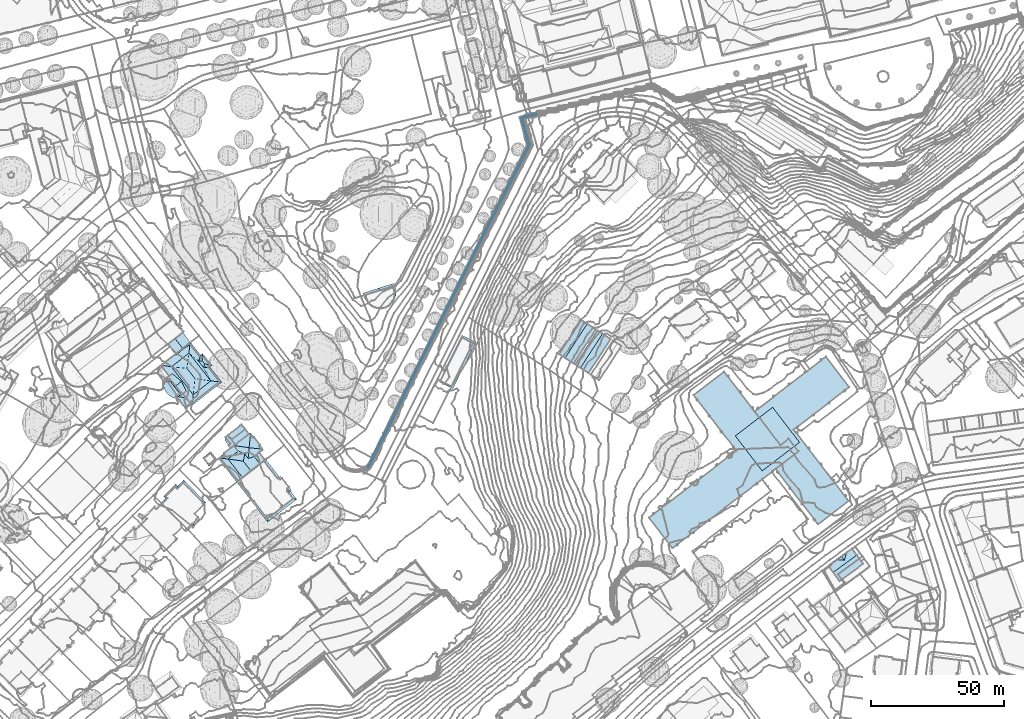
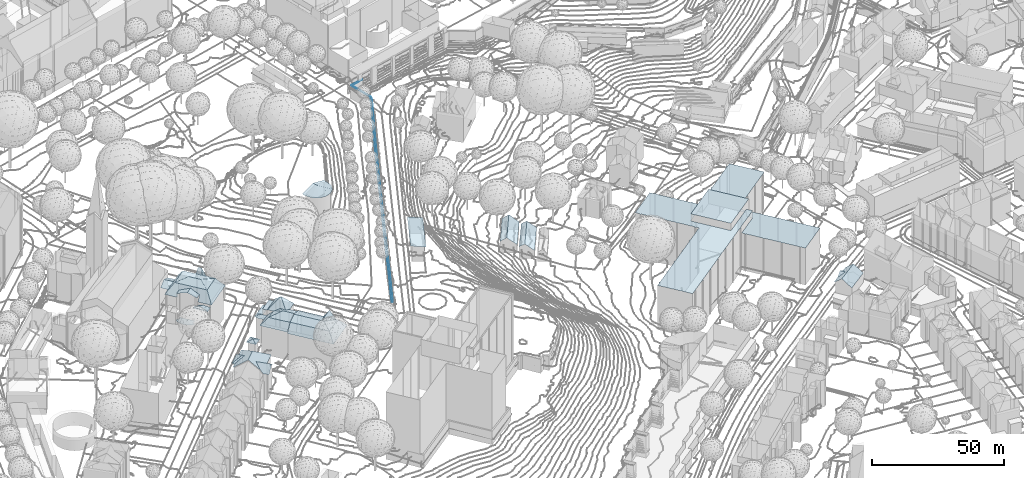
# Not in any storey, part 76 of 477: 19 roofs.
"""IFC4 building model written with IfcOpenShell, lengths in metres."""

from ifc_helpers import new_model, si_unit, frame, origin_with_axes, place, context, subcontext, project, spatial, polygons, element, save


model = new_model("IFC4")

# Units and contexts
model_context = context("Model", 3, precision=1e-05, world=origin_with_axes())
body_context = subcontext(model_context, "Body", "Model", "MODEL_VIEW")
ifc_project = project(units=[si_unit("AREAUNIT", "SQUARE_METRE"), si_unit("LENGTHUNIT", "METRE")], contexts=[model_context])

# Sites, building
site_1_placement = place(None, origin_with_axes())
site_1 = spatial("IfcSite", under=ifc_project, at=site_1_placement, Name="Topoexport Site")
site_2_placement = place(site_1_placement, origin_with_axes())
site_2 = spatial("IfcSite", under=site_1, at=site_2_placement, Name="TPX_BUILDINGS")
building_1_placement = place(site_2_placement, frame((211.8297320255, 101.9383160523, 526.7541), z_axis=(0.0, 0.0, 1.0), x_axis=(1.0, 0.0, 0.0)))
building_1 = spatial("IfcBuilding", under=site_2, at=building_1_placement, Name="Building 18", CompositionType="ELEMENT")

# Roof
roof_1_placement = place(None, frame((211.8297320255, 101.9383160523, 526.7541), z_axis=(0.0, 0.0, 1.0), x_axis=(1.0, 0.0, 0.0)))
element("IfcRoof", 1, at=roof_1_placement, inside=building_1, Name="Roof 61", context=body_context, shape_type="Tessellation", body=[
    polygons([(101.5769999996, 200.1640000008, 12.725), (98.7160000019, 210.6893999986, 12.908), (102.1030000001, 200.1112999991, 12.725), (98.7479999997, 194.5351000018, 12.725), (99.1889999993, 194.3115000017, 12.725), (87.0150000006, 170.5927000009, 12.7249), (86.574000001, 170.8154000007, 12.7249), (99.3280000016, 210.3222000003, 12.908), (104.682, 212.057599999, 12.908), (104.8100000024, 211.5791000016, 12.908), (69.2980000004, 136.0634999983, 12.3579), (79.3300000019, 155.1757000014, 12.45), (69.7410000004, 135.8436999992, 12.3579), (78.8869000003, 155.3955000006, 12.45), (60.0820000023, 116.4853000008, 12.2659), (59.6380000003, 116.7041000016, 12.2659), (41.626000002, 79.3007999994, 11.9909), (50.068, 97.128899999, 11.991), (50.5109999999, 96.9081999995, 11.991), (41.1750000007, 79.504900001, 11.9909)], [[[3, 2, 1]], [[5, 3, 4]], [[4, 3, 1]], [[4, 7, 6]], [[4, 6, 5]], [[2, 3, 8]], [[10, 9, 8]], [[2, 8, 9]], [[13, 12, 11]], [[11, 12, 14]], [[16, 15, 13]], [[16, 13, 11]], [[6, 7, 14]], [[14, 12, 6]], [[19, 18, 17]], [[20, 17, 18]], [[18, 19, 15]], [[15, 16, 18]]]),
])

# Building
building_2_placement = place(site_2_placement, frame((191.7677320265, 184.7195160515, 533.4186), z_axis=(0.0, 0.0, 1.0), x_axis=(1.0, 0.0, 0.0)))
building_2 = spatial("IfcBuilding", under=site_2, at=building_2_placement, Name="Building 38", CompositionType="ELEMENT")

# Roof
roof_2_placement = place(None, frame((191.7677320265, 184.7195160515, 533.4186), z_axis=(0.0, 0.0, 1.0), x_axis=(1.0, 0.0, 0.0)))
element("IfcRoof", 2, at=roof_2_placement, inside=building_2, Name="Roof 0", context=body_context, shape_type="Tessellation", body=[
    polygons([(2.1559999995, -0.2733999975, 7.1693), (2.3889999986, 1.7871000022, 6.5494), (4.9010000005, -0.5975999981, 6.3234), (2.4739999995, 2.5362000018, 6.3234), (1.7939999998, -3.0047999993, 6.3234), (1.8900000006, -2.2802000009, 6.5484), (0.0410000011, 0.0322999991, 6.5284), (-0.6339999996, 0.1289000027, 6.3234)], [[[3, 2, 1]], [[2, 3, 4]], [[6, 5, 3]], [[3, 1, 6]], [[2, 4, 7]], [[7, 1, 2]], [[8, 7, 4]], [[7, 8, 5]], [[7, 6, 1]], [[6, 7, 5]]]),
])

# Building
building_3_placement = place(site_2_placement, frame((204.5047320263, 176.2020160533, 532.0837), z_axis=(0.0, 0.0, 1.0), x_axis=(1.0, 0.0, 0.0)))
building_3 = spatial("IfcBuilding", under=site_2, at=building_3_placement, Name="Building 39", CompositionType="ELEMENT")

# Roof
roof_3_placement = place(None, frame((204.5047320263, 176.2020160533, 532.0837), z_axis=(0.0, 0.0, 1.0), x_axis=(1.0, 0.0, 0.0)))
element("IfcRoof", 3, at=roof_3_placement, inside=building_3, Name="Roof 0", context=body_context, shape_type="Tessellation", body=[
    polygons([(6.443, -4.9726999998, 16.2564), (4.618999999, -2.6182000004, 16.2505), (11.7740000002, -5.2979000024, 17.3633), (4.7919999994, 3.7127999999, 17.3634), (1.2659999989, -1.6202000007, 13.7067), (-0.563000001, -0.4365999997, 12.8058), (0.7840000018, -1.0030000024, 13.7007), (1.7730000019, -2.2696000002, 13.7137), (8.3430000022, -7.4229000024, 16.2654), (11.0329999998, -15.4013999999, 12.8058), (10.2710000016, -13.1425999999, 13.7857), (2.7219999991, -0.1680000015, 16.2415), (0.0, 0.0, 13.6807), (1.6440000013, 1.2733999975, 16.2365), (14.6059999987, -1.9483000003, 16.3204), (8.182, 6.3398000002, 16.3205), (10.387000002, 8.0487999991, 12.8058), (11.7120000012, 4.9081999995, 13.9097), (15.4829999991, 1.4715999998, 12.8058), (15.3680000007, 1.0243999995, 13.2647), (10.5859999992, 7.7918999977, 12.8058), (17.7809999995, -0.6436000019, 17.3633), (15.686999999, -3.3535999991, 16.3204), (19.0969999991, -2.3428000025, 14.7176), (20.0480000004, -3.5713, 12.8058), (18.7879999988, -3.5078999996, 13.8217), (21.9820000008, -6.9160999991, 12.8058), (11.1900000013, -14.0870000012, 13.9737), (20.6209999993, -6.7325000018, 14.0196), (11.5040000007, -11.4483000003, 16.3204), (18.0410000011, -6.3828999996, 16.3204), (19.637000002, -3.8887000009, 12.8058), (19.1220000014, -4.6933999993, 13.9397), (18.4979999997, -3.7344000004, 13.8187), (12.3020000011, -5.9785999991, 17.3633), (15.8940000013, 1.7899999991, 13.0208), (16.4570000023, 1.0634000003, 14.3166)], [[[3, 2, 1]], [[3, 4, 2]], [[7, 6, 5]], [[1, 2, 7]], [[1, 7, 5]], [[5, 6, 8]], [[9, 1, 5]], [[9, 5, 8]], [[8, 6, 10]], [[11, 9, 8]], [[10, 11, 8]], [[7, 2, 12]], [[7, 12, 6]], [[13, 6, 12]], [[12, 14, 13]], [[2, 4, 12]], [[4, 14, 12]], [[16, 4, 15]], [[3, 15, 4]], [[18, 17, 16]], [[15, 18, 16]], [[20, 19, 18]], [[15, 20, 18]], [[17, 18, 21]], [[21, 18, 19]], [[3, 22, 15]], [[22, 3, 23]], [[22, 23, 24]], [[24, 26, 25]], [[26, 24, 23]], [[28, 10, 27]], [[30, 28, 29]], [[29, 31, 30]], [[27, 29, 28]], [[29, 27, 32]], [[29, 33, 31]], [[33, 29, 32]], [[34, 23, 33]], [[33, 32, 34]], [[31, 33, 23]], [[32, 25, 34]], [[26, 23, 34]], [[26, 34, 25]], [[3, 35, 31]], [[31, 23, 3]], [[30, 31, 35]], [[3, 1, 9]], [[9, 35, 3]], [[30, 35, 9]], [[30, 9, 28]], [[11, 10, 28]], [[11, 28, 9]], [[20, 15, 36]], [[20, 36, 19]], [[15, 22, 37]], [[15, 37, 36]]]),
])

# Building
building_4_placement = place(site_2_placement, frame((197.8567320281, 184.744916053, 532.0838), z_axis=(0.0, 0.0, 1.0), x_axis=(1.0, 0.0, 0.0)))
building_4 = spatial("IfcBuilding", under=site_2, at=building_4_placement, Name="Building 40", CompositionType="ELEMENT")

# Roofs
roof_4_placement = place(None, frame((197.8567320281, 184.744916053, 532.0838), z_axis=(0.0, 0.0, 1.0), x_axis=(1.0, 0.0, 0.0)))
element("IfcRoof", 4, at=roof_4_placement, inside=building_4, Name="Roof 0", context=body_context, shape_type="Tessellation", body=[
    polygons([(9.1039999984, 1.5566999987, 16.9903), (8.5839999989, -1.1455000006, 17.6982), (6.7390000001, 2.6748000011, 15.8304), (10.3859999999, -0.1435000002, 16.8103), (5.1609999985, 4.7109999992, 15.8304), (6.6079999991, 2.8447999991, 15.6304), (3.9210000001, 3.7509999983, 13.4287), (5.1609999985, 4.7109999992, 13.4287), (2.8959999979, -0.3047000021, 16.1534), (1.3369999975, 1.7480999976, 13.4287), (0.0460000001, -0.0595000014, 14.1016), (-0.8900000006, 0.0214999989, 13.4287), (0.6609999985, -0.8506000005, 14.1086), (3.3319999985, -0.9384000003, 16.1154), (5.2709999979, -3.4404000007, 16.1304), (6.6479999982, -8.5428999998, 14.1446), (7.0219999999, -5.7001999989, 16.1434), (8.2919999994, -7.2695000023, 16.2364), (6.0849999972, -8.9794999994, 13.4286), (6.3269999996, -8.1308000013, 14.1306), (11.4399999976, -4.8300999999, 17.6982), (14.8299999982, -2.2030999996, 15.8304), (12.6519999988, 0.6064999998, 15.8304), (15.6419999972, 2.9239000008, 15.8304), (15.3669999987, 3.4081999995, 16.5093), (16.1559999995, 3.3222999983, 15.8304), (14.6119999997, 2.1259999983, 15.8304), (10.7410000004, 3.9091999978, 20.49), (12.7159999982, 7.7626999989, 15.8304), (11.2669999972, 8.6767999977, 16.5264), (11.3589999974, 9.5146999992, 15.8304), (14.8389999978, 5.0214999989, 15.8304), (5.6769999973, 5.1142999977, 15.8304), (12.7740000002, 0.7021999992, 15.6304), (14.6119999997, 2.1259999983, 12.6237), (16.7899999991, -0.6845000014, 12.6237)], [[[3, 2, 1]], [[1, 2, 4]], [[1, 5, 3]], [[8, 7, 6]], [[3, 6, 7]], [[7, 9, 3]], [[11, 9, 10]], [[10, 12, 11]], [[7, 10, 9]], [[12, 13, 11]], [[11, 13, 14]], [[14, 9, 11]], [[15, 14, 13]], [[18, 17, 16]], [[20, 19, 16]], [[20, 16, 17]], [[17, 2, 15]], [[14, 15, 2]], [[9, 2, 3]], [[2, 9, 14]], [[2, 17, 21]], [[21, 17, 18]], [[2, 21, 4]], [[4, 21, 22]], [[22, 23, 4]], [[26, 25, 24]], [[24, 25, 27]], [[27, 28, 23]], [[28, 27, 25]], [[4, 23, 28]], [[4, 28, 1]], [[5, 1, 28]], [[31, 30, 29]], [[29, 30, 28]], [[32, 28, 25]], [[28, 32, 29]], [[25, 26, 32]], [[13, 12, 19]], [[15, 13, 20]], [[20, 17, 15]], [[19, 20, 13]], [[33, 30, 31]], [[28, 33, 5]], [[30, 33, 28]], [[23, 22, 34]], [[34, 36, 35]], [[36, 34, 22]]]),
])
roof_5_placement = place(None, frame((197.8567320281, 184.744916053, 532.0838), z_axis=(0.0, 0.0, 1.0), x_axis=(1.0, 0.0, 0.0)))
element("IfcRoof", 5, at=roof_5_placement, inside=building_4, Name="Roof 1", context=body_context, shape_type="Tessellation", body=[
    polygons([(5.6769999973, 5.1142999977, 15.1485), (4.2889999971, 6.9043000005, 15.1485), (9.5409999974, 10.9756000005, 15.1485), (10.9299999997, 9.183600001, 15.1485)], [[[3, 2, 1]], [[4, 3, 1]]]),
])
roof_6_placement = place(None, frame((197.8567320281, 184.744916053, 532.0838), z_axis=(0.0, 0.0, 1.0), x_axis=(1.0, 0.0, 0.0)))
element("IfcRoof", 6, at=roof_6_placement, inside=building_4, Name="Roof 2", context=body_context, shape_type="Tessellation", body=[
    polygons([(1.936999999, 7.816399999, 12.1418), (4.0439999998, 7.2216999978, 12.6367), (2.7669999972, 6.75, 12.2948), (1.856999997, 6.4140999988, 12.0508), (1.550999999, 7.9307000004, 12.0508), (2.9629999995, 8.6162, 12.1738), (2.7649999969, 8.871100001, 12.0888), (3.1030000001, 4.8066999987, 12.0508), (5.6769999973, 5.1142999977, 12.6367), (3.9210000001, 3.7509999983, 12.0508), (8.0169999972, 12.9404999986, 12.1278), (9.5409999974, 10.9756000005, 12.1278), (4.0439999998, 7.2216999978, 12.1278), (4.2889999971, 6.9043000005, 12.1278), (3.2669999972, 8.2236999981, 12.1038)], [[[3, 2, 1]], [[3, 5, 4]], [[5, 3, 1]], [[5, 1, 6]], [[5, 6, 7]], [[6, 1, 2]], [[10, 9, 8]], [[8, 9, 2]], [[4, 8, 3]], [[3, 8, 2]], [[13, 12, 11]], [[12, 13, 14]], [[13, 11, 15]], [[7, 15, 11]]]),
])

# Building
building_5_placement = place(site_2_placement, frame((424.3367320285, 142.6277160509, 499.4686), z_axis=(0.0, 0.0, 1.0), x_axis=(1.0, 0.0, 0.0)))
building_5 = spatial("IfcBuilding", under=site_2, at=building_5_placement, Name="Building 62", CompositionType="ELEMENT")

# Roof
roof_7_placement = place(None, frame((424.3367320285, 142.6277160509, 499.4686), z_axis=(0.0, 0.0, 1.0), x_axis=(1.0, 0.0, 0.0)))
element("IfcRoof", 7, at=roof_7_placement, inside=building_5, Name="Roof 2", context=body_context, shape_type="Tessellation", body=[
    polygons([(4.9789999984, 4.0420000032, 10.672), (6.2359999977, 5.5557000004, 11.9688), (6.5159999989, 5.1739000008, 11.9688), (7.5119999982, 3.8115999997, 11.9688), (4.2569999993, 4.1075000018, 10.302), (8.5209999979, 7.2276000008, 10.302), (8.3029999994, 6.4912, 10.662), (12.2349999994, 5.7920000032, 12.8867), (3.3819999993, -0.682599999, 12.8867), (14.675999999, 2.452200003, 9.824), (5.8249999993, -4.0233999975, 9.824), (10.3319999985, 8.3916000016, 10.377), (10.5249999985, 8.1280000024, 10.632), (1.4039999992, 2.0205000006, 10.302), (1.8729999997, 1.379900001, 10.9149)], [[[3, 2, 1]], [[1, 4, 3]], [[5, 1, 2]], [[7, 6, 2]], [[2, 3, 7]], [[3, 4, 7]], [[4, 8, 7]], [[9, 8, 4]], [[10, 8, 9]], [[9, 11, 10]], [[7, 8, 6]], [[13, 12, 6]], [[8, 13, 6]], [[15, 5, 14]], [[15, 1, 5]], [[9, 1, 15]], [[9, 4, 1]]]),
])

# Building
building_6_placement = place(site_2_placement, frame((176.0177320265, 167.5691160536, 531.6498), z_axis=(0.0, 0.0, 1.0), x_axis=(1.0, 0.0, 0.0)))
building_6 = spatial("IfcBuilding", under=site_2, at=building_6_placement, Name="Building 75", CompositionType="ELEMENT")

# Roof
roof_8_placement = place(None, frame((176.0177320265, 167.5691160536, 531.6498), z_axis=(0.0, 0.0, 1.0), x_axis=(1.0, 0.0, 0.0)))
element("IfcRoof", 8, at=roof_8_placement, inside=building_6, Name="Roof 0", context=body_context, shape_type="Tessellation", body=[
    polygons([(3.7859999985, -3.8349000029, 16.7394), (5.6339999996, 2.182699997, 14.4406), (8.129999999, 0.4511999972, 16.7394), (8.1020000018, 7.7969000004, 12.7008), (0.0, 0.0, 12.5908), (2.0469999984, 2.1845999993, 12.5008), (-0.4659999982, 0.4716999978, 12.0798), (1.2679999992, 2.1845999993, 12.0798), (8.0980000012, 8.9267999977, 12.0798), (5.8429999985, 6.7001999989, 12.0798), (5.7989999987, 5.7597999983, 12.5718), (16.4149999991, 0.5029999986, 12.0798), (15.3599999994, 0.4960999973, 12.6737), (1.4890000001, 2.9219000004, 12.5938), (0.5190000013, 2.941399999, 12.0798), (4.9759999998, 2.8497000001, 14.4406), (12.194000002, -3.6640000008, 12.0798), (5.0639999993, 6.2696000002, 12.6898), (5.0940000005, 7.4599999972, 12.0798), (7.2509999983, -3.8769000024, 14.7546), (7.0960000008, -7.1894000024, 12.9447), (11.3790000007, -3.754800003, 12.5218), (11.1099999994, -8.5371000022, 14.2356), (9.1000000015, -10.5205000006, 12.0798), (10.9990000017, -7.8192999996, 14.6726), (11.0590000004, -7.7343000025, 14.7545), (11.944000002, -7.7148000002, 14.2356), (7.4030000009, -8.8007000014, 12.0798), (8.5870000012, -10.0, 12.0798), (11.4840000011, -7.3388000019, 14.2866), (11.8399999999, -6.9843000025, 13.9196), (13.568, -5.0566000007, 12.0798), (14.0949999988, -5.5908000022, 12.0798), (13.4609999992, -5.1621000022, 12.1828)], [[[3, 2, 1]], [[2, 3, 4]], [[6, 5, 1]], [[8, 7, 5]], [[6, 1, 2]], [[10, 4, 9]], [[4, 10, 11]], [[6, 8, 5]], [[11, 2, 4]], [[13, 12, 9]], [[13, 4, 3]], [[4, 13, 9]], [[15, 8, 14]], [[14, 8, 6]], [[6, 2, 16]], [[6, 16, 14]], [[13, 3, 17]], [[2, 11, 16]], [[16, 11, 18]], [[18, 10, 19]], [[10, 18, 11]], [[18, 19, 14]], [[18, 14, 16]], [[14, 19, 15]], [[13, 17, 12]], [[1, 21, 20]], [[3, 1, 20]], [[17, 3, 20]], [[17, 20, 22]], [[25, 24, 23]], [[25, 23, 26]], [[26, 23, 27]], [[25, 26, 28]], [[29, 24, 25]], [[28, 29, 25]], [[26, 20, 21]], [[28, 26, 21]], [[27, 30, 26]], [[20, 26, 30]], [[22, 20, 30]], [[30, 27, 31]], [[30, 31, 22]], [[17, 22, 32]], [[34, 33, 32]], [[34, 32, 22]], [[31, 27, 33]], [[34, 22, 31]], [[33, 34, 31]]]),
])

# Building
building_7_placement = place(site_2_placement, frame((358.6987320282, 162.4100160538, 500.5526), z_axis=(0.0, 0.0, 1.0), x_axis=(1.0, 0.0, 0.0)))
building_7 = spatial("IfcBuilding", under=site_2, at=building_7_placement, Name="Building 90", CompositionType="ELEMENT")

# Roofs
roof_9_placement = place(None, frame((358.6987320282, 162.4100160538, 500.5526), z_axis=(0.0, 0.0, 1.0), x_axis=(1.0, 0.0, 0.0)))
element("IfcRoof", 9, at=roof_9_placement, inside=building_7, Name="Roof 0", context=body_context, shape_type="Tessellation", body=[
    polygons([(46.2299999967, 16.932599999, 20.544), (46.3899999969, 17.4463, 20.544), (46.5789999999, 17.2010999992, 20.544), (46.0409999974, 17.1787, 20.544), (42.3459999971, 17.5449000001, 20.544), (40.4329999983, 12.875, 20.544), (56.0319999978, 24.8475999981, 20.544), (40.3519999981, 12.4217999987, 20.544), (40.6219999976, 12.628899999, 20.544), (34.498999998, 8.3202999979, 20.544), (34.6879999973, 8.0751999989, 20.544), (34.3389999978, 7.806599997, 20.544), (40.1629999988, 12.6678999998, 20.544), (54.4849999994, 26.8622999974, 20.544), (31.3310000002, 24.0487999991, 20.544), (31.6719999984, 24.3104999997, 20.544), (32.737999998, 25.1278999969, 20.544), (25.7309999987, 19.75, 20.544), (28.549999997, 3.753899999, 20.544), (19.7899999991, 15.1903999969, 20.544), (34.1499999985, 8.052699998, 20.544), (25.3899999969, 19.4881999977, 20.544), (25.5419999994, 19.9969999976, 20.544), (19.4489999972, 14.9287, 20.544), (31.1419999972, 24.2949000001, 20.544), (28.2089999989, 3.4921999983, 20.544), (28.7390000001, 3.5077999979, 20.544), (28.3979999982, 3.2460999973, 20.544), (22.6009999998, -0.8125, 20.544), (22.2599999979, -1.0743000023, 20.544), (22.7899999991, -1.058600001, 20.544), (16.8409999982, -5.6240999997, 20.544), (16.5, -5.8868000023, 20.544), (16.310999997, -5.6407000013, 20.544), (10.3619999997, -10.2061000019, 20.544), (10.8919999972, -10.1905000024, 20.544), (10.550999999, -10.452200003, 20.544), (22.4489999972, -1.3203000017, 20.544), (13.8259999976, 10.6112999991, 20.544), (13.4839999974, 10.3495999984, 20.544), (13.6369999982, 10.8574000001, 20.544), (16.6519999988, -5.3780000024, 20.544), (7.5359999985, 5.7840999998, 20.544), (7.8769999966, 6.0458999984, 20.544), (10.7029999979, -9.9444000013, 20.544), (1.9269999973, 1.4784999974, 20.544), (8.7929999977, -11.4101999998, 20.544), (1.5869999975, 1.2176999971, 20.544), (1.737999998, 1.7245999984, 20.544), (0.0, 0.0, 20.544), (7.3469999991, 6.0292999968, 20.544), (19.2599999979, 15.1747999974, 20.544), (38.7479999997, 41.4296999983, 20.544), (39.0099999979, 41.0887999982, 20.544), (38.7639999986, 40.8993999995, 20.544), (34.1879999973, 46.8544999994, 20.544), (38.5019999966, 41.2412, 20.544), (22.7960000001, 38.0819999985, 20.544), (27.0999999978, 32.4736000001, 20.544), (32.2749999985, 30.6639999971, 20.544), (41.3039999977, 37.5936999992, 20.544), (31.9219999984, 26.1903999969, 20.544), (27.3619999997, 32.1327999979, 20.544), (27.1159999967, 31.9432999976, 20.544), (33.925999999, 47.1952999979, 20.544), (34.1719999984, 47.3847000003, 20.544), (34.4339999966, 47.0438999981, 20.544), (22.5350000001, 38.422799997, 20.544), (29.6079999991, 53.3241999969, 20.544), (29.8699999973, 52.9824000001, 20.544), (29.623999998, 52.7938999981, 20.544), (18.2299999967, 44.0321999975, 20.544), (17.9679999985, 44.3729999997, 20.544), (16.754999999, 45.9540999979, 20.544), (29.3619999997, 53.1347000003, 20.544), (28.1559999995, 54.7049999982, 20.544), (22.2889999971, 38.2333999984, 20.544), (17.9839999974, 43.8426999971, 20.544), (19.6009999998, 15.436499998, 20.544), (25.2009999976, 19.7342999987, 20.544), (13.2949999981, 10.5956999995, 20.544), (7.6879999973, 6.2919999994, 20.544), (1.3979999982, 1.4637999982, 20.544), (31.4829999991, 24.556599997, 20.544), (31.6600000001, 26.5321999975, 20.544), (31.675999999, 26.0018999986, 20.544), (26.8539999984, 32.2850999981, 20.544), (22.549999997, 37.8924999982, 20.544), (17.7219999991, 44.1835999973, 20.544), (31.4139999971, 26.3426999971, 20.544)], [[[3, 2, 1]], [[5, 4, 2]], [[6, 4, 5]], [[2, 7, 5]], [[1, 2, 4]], [[9, 6, 8]], [[12, 11, 10]], [[6, 13, 8]], [[6, 5, 13]], [[5, 7, 14]], [[10, 13, 5]], [[16, 15, 5]], [[16, 5, 17]], [[18, 5, 15]], [[21, 20, 19]], [[18, 21, 10]], [[21, 12, 10]], [[22, 20, 21]], [[23, 22, 18]], [[22, 21, 18]], [[10, 5, 18]], [[19, 20, 24]], [[25, 15, 16]], [[28, 27, 26]], [[29, 26, 24]], [[31, 29, 30]], [[19, 26, 27]], [[34, 33, 32]], [[37, 36, 35]], [[38, 31, 30]], [[29, 39, 30]], [[39, 40, 30]], [[39, 29, 24]], [[40, 39, 41]], [[30, 40, 42]], [[44, 43, 42]], [[44, 42, 40]], [[42, 43, 34]], [[45, 35, 36]], [[34, 43, 45]], [[35, 45, 46]], [[35, 48, 47]], [[48, 35, 46]], [[48, 46, 49]], [[47, 48, 50]], [[43, 46, 45]], [[44, 51, 43]], [[42, 34, 32]], [[19, 24, 26]], [[20, 52, 24]], [[55, 54, 53]], [[58, 57, 56]], [[53, 57, 55]], [[55, 57, 59]], [[61, 55, 60]], [[60, 62, 17]], [[63, 60, 55]], [[55, 59, 63]], [[63, 59, 64]], [[57, 58, 59]], [[56, 66, 65]], [[66, 56, 67]], [[68, 56, 65]], [[71, 70, 69]], [[65, 72, 68]], [[72, 65, 71]], [[72, 71, 73]], [[73, 75, 74]], [[75, 73, 71]], [[74, 75, 76]], [[71, 69, 75]], [[68, 77, 58]], [[56, 68, 58]], [[78, 72, 73]], [[52, 20, 79]], [[80, 22, 23]], [[41, 81, 40]], [[44, 82, 51]], [[49, 83, 48]], [[25, 16, 84]], [[86, 62, 85]], [[85, 62, 60]], [[59, 87, 64]], [[88, 58, 77]], [[73, 89, 78]], [[90, 86, 85]], [[63, 85, 60]], [[5, 60, 17]]]),
])
roof_10_placement = place(None, frame((358.6987320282, 162.4100160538, 500.5526), z_axis=(0.0, 0.0, 1.0), x_axis=(1.0, 0.0, 0.0)))
element("IfcRoof", 10, at=roof_10_placement, inside=building_7, Name="Roof 1", context=body_context, shape_type="Tessellation", body=[
    polygons([(40.6439999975, 40.6503999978, 17.1843), (40.4549999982, 40.8963999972, 17.1843), (40.7960000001, 41.1590999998, 17.1843), (40.9849999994, 40.9129999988, 17.1843), (41.3039999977, 37.5936999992, 17.1843), (46.2509999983, 41.3915999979, 17.1843), (46.5899999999, 45.2215999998, 17.1843), (46.4009999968, 45.4676999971, 17.1843), (46.9299999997, 45.4833999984, 17.1843), (52.5429999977, 49.7997999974, 17.1843), (46.7409999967, 45.7294999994, 17.1843), (52.3539999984, 50.0458999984, 17.1843), (52.8829999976, 50.061499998, 17.1843), (54.2729999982, 33.0047999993, 17.1843), (55.3229999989, 33.8125, 17.1843), (39.5829999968, 39.8338999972, 17.1843), (61.2839999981, 38.3954999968, 17.1843), (55.6719999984, 34.0810000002, 17.1843), (55.5119999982, 33.566399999, 17.1843), (61.6329999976, 38.6639999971, 17.1843), (61.4729999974, 38.1493999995, 17.1843), (55.8609999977, 33.8348999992, 17.1843), (61.8219999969, 38.4178999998, 17.1843), (58.4869999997, 54.3719999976, 17.1843), (58.2979999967, 54.6180999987, 17.1843), (58.6389999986, 54.8797999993, 17.1843), (58.8279999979, 54.6338, 17.1843), (67.561999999, 43.2236000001, 17.1843), (64.4239999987, 58.936499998, 17.1843), (64.2349999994, 59.182599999, 17.1843), (64.5759999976, 59.4442999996, 17.1843), (64.7649999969, 59.1991999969, 17.1843), (73.5059999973, 47.7949000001, 17.1843), (75.0839999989, 49.0077999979, 17.1843), (66.3319999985, 60.4032999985, 17.1843), (73.1659999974, 47.5331999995, 17.1843), (67.2209999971, 42.9618999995, 17.1843), (67.4100000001, 42.7157999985, 17.1843), (52.6939999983, 50.307599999, 17.1843), (67.7509999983, 42.9774999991, 17.1843), (73.6949999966, 47.5487999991, 17.1843), (73.3549999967, 47.2870999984, 17.1843), (48.0209999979, 17.0155999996, 17.1843), (48.5279999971, 16.8631999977, 17.1843), (48.2829999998, 16.6747999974, 17.1843), (48.2659999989, 17.2049999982, 17.1843), (56.3209999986, 28.2723999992, 17.1843), (55.0899999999, 31.9422999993, 17.1843), (55.3579999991, 31.5936999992, 17.1843), (56.0319999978, 24.8475999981, 17.1843), (54.4849999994, 26.8622999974, 17.1843), (59.9229999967, 25.6551999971, 17.1843), (64.2329999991, 20.0497999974, 17.1843), (52.8369999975, 11.2586999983, 17.1843), (47.4529999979, 18.2626999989, 17.1843), (59.6549999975, 26.0047999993, 17.1843), (53.0989999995, 10.9188999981, 17.1843), (52.5920000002, 11.0692999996, 17.1843), (61.9869999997, -0.639700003, 17.1843), (62.0029999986, -1.1689999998, 17.1843), (61.7409999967, -0.8282000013, 17.1843), (57.4089999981, 5.3134000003, 17.1843), (57.4189999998, 4.7919999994, 17.1843), (57.1629999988, 5.125, 17.1843), (57.6649999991, 4.9803999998, 17.1843), (69.0589999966, 13.7714999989, 17.1843), (68.8029999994, 14.1044999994, 17.1843), (62.248999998, -0.9805000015, 17.1843), (73.6429999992, 7.8094999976, 17.1843), (73.368999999, 8.1669999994, 17.1843), (64.4949999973, 19.7088999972, 17.1843), (52.8539999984, 10.7294999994, 17.1843), (74.8519999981, 6.2372999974, 17.1843), (63.4439999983, -2.5342000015, 17.1843), (55.6039999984, 31.7831999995, 17.1843), (60.1689999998, 25.8446999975, 17.1843), (55.3359999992, 32.1317999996, 17.1843), (59.9009999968, 26.1932999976, 17.1843), (64.4780000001, 20.2381999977, 17.1843), (64.7399999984, 19.8973999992, 17.1843), (73.8889999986, 7.998999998, 17.1843), (69.0489999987, 14.2938999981, 17.1843), (69.3049999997, 13.9608999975, 17.1843), (73.6149999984, 8.3553999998, 17.1843)], [[[3, 2, 1]], [[4, 3, 1]], [[4, 1, 5]], [[7, 4, 6]], [[9, 8, 7]], [[6, 10, 9]], [[9, 11, 8]], [[13, 12, 10]], [[9, 7, 6]], [[5, 6, 4]], [[15, 6, 14]], [[5, 1, 16]], [[6, 18, 17]], [[18, 6, 15]], [[15, 19, 18]], [[17, 21, 20]], [[19, 22, 18]], [[17, 20, 10]], [[17, 10, 6]], [[21, 23, 20]], [[26, 25, 24]], [[24, 27, 26]], [[27, 24, 28]], [[31, 30, 29]], [[32, 31, 29]], [[33, 32, 29]], [[35, 32, 34]], [[29, 27, 36]], [[24, 37, 28]], [[37, 13, 20]], [[37, 38, 28]], [[39, 12, 13]], [[40, 28, 38]], [[34, 32, 33]], [[29, 36, 33]], [[41, 33, 36]], [[42, 41, 36]], [[28, 36, 27]], [[37, 24, 13]], [[10, 20, 13]], [[45, 44, 43]], [[46, 43, 44]], [[49, 48, 47]], [[47, 51, 50]], [[46, 44, 50]], [[52, 50, 44]], [[54, 53, 44]], [[55, 46, 50]], [[56, 47, 50]], [[58, 57, 54]], [[14, 6, 47]], [[61, 60, 59]], [[64, 63, 62]], [[62, 63, 65]], [[66, 62, 65]], [[57, 62, 67]], [[69, 59, 68]], [[59, 60, 68]], [[65, 59, 70]], [[54, 57, 71]], [[72, 57, 58]], [[74, 73, 68]], [[75, 48, 49]], [[47, 48, 14]], [[76, 56, 52]], [[52, 44, 53]], [[52, 56, 50]], [[47, 56, 49]], [[75, 77, 48]], [[78, 56, 76]], [[53, 80, 79]], [[53, 54, 71]], [[65, 70, 66]], [[70, 59, 69]], [[70, 69, 81]], [[67, 66, 82]], [[67, 71, 57]], [[66, 83, 82]], [[70, 81, 84]], [[69, 68, 73]], [[71, 80, 53]], [[62, 66, 67]]]),
])
roof_11_placement = place(None, frame((358.6987320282, 162.4100160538, 500.5526), z_axis=(0.0, 0.0, 1.0), x_axis=(1.0, 0.0, 0.0)))
element("IfcRoof", 11, at=roof_11_placement, inside=building_7, Name="Roof 2", context=body_context, shape_type="Tessellation", body=[
    polygons([(32.2749999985, 30.6639999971, 23.8497), (46.2509999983, 41.3915999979, 23.8497), (56.3209999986, 28.2723999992, 23.8497), (42.3459999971, 17.5449000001, 23.8497)], [[[3, 2, 1]], [[1, 4, 3]]]),
])

# Building
building_8_placement = place(site_2_placement, frame((331.0367320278, 219.7098160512, 508.5819), z_axis=(0.0, 0.0, 1.0), x_axis=(1.0, 0.0, 0.0)))
building_8 = spatial("IfcBuilding", under=site_2, at=building_8_placement, Name="Building 91", CompositionType="ELEMENT")

# Roof
roof_12_placement = place(None, frame((331.0367320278, 219.7098160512, 508.5819), z_axis=(0.0, 0.0, 1.0), x_axis=(1.0, 0.0, 0.0)))
element("IfcRoof", 12, at=roof_12_placement, inside=building_8, Name="Roof 0", context=body_context, shape_type="Tessellation", body=[
    polygons([(0.0, 0.0, 5.4855), (8.3099999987, 12.7871000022, 5.4855), (10.1079999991, 11.6181000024, 6.7144), (1.7980000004, -1.1689999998, 6.7144), (4.8889999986, -3.1777999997, 3.8936), (13.1989999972, 9.6084000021, 3.8936)], [[[3, 2, 1]], [[1, 4, 3]], [[6, 3, 5]], [[4, 5, 3]]]),
])

# Building
building_9_placement = place(site_2_placement, frame((324.9327320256, 223.6766160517, 510.9427), z_axis=(0.0, 0.0, 1.0), x_axis=(1.0, 0.0, 0.0)))
building_9 = spatial("IfcBuilding", under=site_2, at=building_9_placement, Name="Building 93", CompositionType="ELEMENT")

# Roof
roof_13_placement = place(None, frame((324.9327320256, 223.6766160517, 510.9427), z_axis=(0.0, 0.0, 1.0), x_axis=(1.0, 0.0, 0.0)))
element("IfcRoof", 13, at=roof_13_placement, inside=building_9, Name="Roof 0", context=body_context, shape_type="Tessellation", body=[
    polygons([(2.1440000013, -1.3925999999, 7.0203), (8.3100000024, 12.7871000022, 5.2575), (10.4539999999, 11.3935000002, 7.0203), (0.0, 0.0, 5.2575), (5.4330000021, -3.5313000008, 3.9306), (13.7430000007, 9.2558000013, 3.9306)], [[[3, 2, 1]], [[4, 1, 2]], [[1, 5, 3]], [[6, 3, 5]]]),
])

# Building
building_10_placement = place(site_2_placement, frame((280.3717320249, 213.5818160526, 528.5311), z_axis=(0.0, 0.0, 1.0), x_axis=(1.0, 0.0, 0.0)))
building_10 = spatial("IfcBuilding", under=site_2, at=building_10_placement, Name="Building 94", CompositionType="ELEMENT")

# Roof
roof_14_placement = place(None, frame((280.3717320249, 213.5818160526, 528.5311), z_axis=(0.0, 0.0, 1.0), x_axis=(1.0, 0.0, 0.0)))
element("IfcRoof", 14, at=roof_14_placement, inside=building_10, Name="Roof 0", context=body_context, shape_type="Tessellation", body=[
    polygons([(8.0320000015, 17.3018000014, 7.5122), (4.6950000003, -2.7617000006, 6.7823), (-0.5999999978, -0.1416000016, 7.5122), (13.3270000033, 14.6816999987, 6.7823)], [[[3, 2, 1]], [[4, 1, 2]]]),
])

# Building
building_11_placement = place(site_2_placement, frame((252.4497320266, 245.9139160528, 540.482), z_axis=(0.0, 0.0, 1.0), x_axis=(1.0, 0.0, 0.0)))
building_11 = spatial("IfcBuilding", under=site_2, at=building_11_placement, Name="Building 99", CompositionType="ELEMENT")

# Roof
roof_15_placement = place(None, frame((252.4497320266, 245.9139160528, 540.482), z_axis=(0.0, 0.0, 1.0), x_axis=(1.0, 0.0, 0.0)))
element("IfcRoof", 15, at=roof_15_placement, inside=building_11, Name="Roof 0", context=body_context, shape_type="Tessellation", body=[
    polygons([(-1.1079999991, 0.7186999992, 9.605), (4.7250000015, 2.5810000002, 11.3829), (5.0029999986, 1.620099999, 11.3829), (-0.5689999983, -1.1484999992, 9.605), (5.2289999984, 0.8387999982, 11.3829), (1.2250000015, -3.1132999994, 9.751), (0.8669999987, -3.4668000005, 9.605), (10.5590000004, 4.442400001, 9.605), (11.0269999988, 2.8251999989, 9.605), (10.1140000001, -2.2763999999, 9.702), (10.7740000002, 0.1766999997, 9.763), (11.3150000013, 0.1123000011, 9.605), (10.3969999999, -2.4561000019, 9.605), (5.875, -5.2558999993, 9.605), (8.4560000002, -4.3720999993, 9.605), (3.2690000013, -4.6464999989, 9.693), (3.1669999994, -4.933600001, 9.605)], [[[3, 2, 1]], [[5, 3, 4]], [[1, 4, 3]], [[7, 6, 4]], [[5, 4, 6]], [[9, 8, 2]], [[3, 5, 9]], [[3, 9, 2]], [[11, 5, 10]], [[11, 13, 12]], [[13, 11, 10]], [[9, 5, 11]], [[12, 9, 11]], [[15, 5, 14]], [[10, 5, 15]], [[10, 15, 13]], [[17, 16, 6]], [[17, 6, 7]], [[6, 16, 5]], [[14, 16, 17]], [[16, 14, 5]]]),
])

# Building
building_12_placement = place(site_2_placement, frame((140.4987320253, 222.5740160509, 530.262), z_axis=(0.0, 0.0, 1.0), x_axis=(1.0, 0.0, 0.0)))
building_12 = spatial("IfcBuilding", under=site_2, at=building_12_placement, Name="Building 152", CompositionType="ELEMENT")

# Roof
roof_16_placement = place(None, frame((140.4987320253, 222.5740160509, 530.262), z_axis=(0.0, 0.0, 1.0), x_axis=(1.0, 0.0, 0.0)))
element("IfcRoof", 16, at=roof_16_placement, inside=building_12, Name="Roof 5", context=body_context, shape_type="Tessellation", body=[
    polygons([(43.3450000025, 9.2910000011, 13.5517), (46.393000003, 5.1338, 13.6237), (43.3969999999, 3.1026000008, 15.1395), (40.3640000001, 6.9619000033, 15.1395), (37.6070000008, 4.808600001, 13.5837), (40.6130000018, 0.7627000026, 13.5227)], [[[3, 2, 1]], [[1, 4, 3]], [[4, 5, 3]], [[6, 3, 5]]]),
])

# Building
building_13_placement = place(site_2_placement, frame((174.360732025, 216.5486160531, 540.845), z_axis=(0.0, 0.0, 1.0), x_axis=(1.0, 0.0, 0.0)))
building_13 = spatial("IfcBuilding", under=site_2, at=building_13_placement, Name="Building 155", CompositionType="ELEMENT")

# Roofs
roof_17_placement = place(None, frame((174.360732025, 216.5486160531, 540.845), z_axis=(0.0, 0.0, 1.0), x_axis=(1.0, 0.0, 0.0)))
element("IfcRoof", 17, at=roof_17_placement, inside=building_13, Name="Roof 0", context=body_context, shape_type="Tessellation", body=[
    polygons([(2.245000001, -4.0615000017, -2.7948), (6.6800000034, -8.5625, -2.7948), (3.3780000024, -7.3203000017, -2.7948), (6.3670000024, -9.3339000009, -2.7948), (7.3160000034, -9.3729999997, -2.7948), (5.375, -9.0625, -2.7948), (4.0850000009, -8.1435000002, -2.7948), (3.9020000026, -3.2871000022, -2.7948), (8.1300000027, -7.4237999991, -2.7948), (3.1480000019, -3.3515000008, -2.7948), (2.693, -6.3144000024, -2.7948), (2.0470000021, -4.7441000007, -2.7948), (2.5250000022, -3.2754000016, -2.7948), (4.5050000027, -2.8125, -2.7948)], [[[3, 2, 1]], [[5, 2, 4]], [[4, 2, 6]], [[7, 6, 2]], [[3, 7, 2]], [[2, 9, 8]], [[1, 2, 10]], [[10, 2, 8]], [[12, 11, 1]], [[11, 3, 1]], [[10, 13, 1]], [[8, 9, 14]]]),
])
roof_18_placement = place(None, frame((174.360732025, 216.5486160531, 540.845), z_axis=(0.0, 0.0, 1.0), x_axis=(1.0, 0.0, 0.0)))
element("IfcRoof", 18, at=roof_18_placement, inside=building_13, Name="Roof 1", context=body_context, shape_type="Tessellation", body=[
    polygons([(9.5260000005, -7.6367000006, 7.9792), (8.7660000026, -8.2343000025, 7.9792), (8.2700000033, -7.6024999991, 8.2642), (10.6860000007, -6.7246000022, 7.9792), (8.8660000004, -3.0088, 9.415), (6.2660000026, -5.0527000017, 9.415), (4.3570000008, -1.058600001, 7.9792), (4.2750000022, -2.5205000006, 8.3442), (3.5970000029, -1.6581999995, 7.9792), (5.5170000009, -0.1493999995, 7.9792), (13.9360000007, -1.9629000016, 11.0839), (19.876000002, -2.8339000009, 10.064), (13.2910000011, -8.0078000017, 10.064), (19.5820000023, 1.4882999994, 6.3393), (18.9020000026, 2.3506000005, 6.1804), (19.518000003, 2.4228999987, 5.5344), (17.1860000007, 2.1513999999, 7.9792), (5.0960000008, 2.4219000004, 10.064), (10.9170000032, 1.8779999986, 11.0839), (11.6780000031, 7.5956999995, 10.064), (9.5260000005, -7.6367000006, 5.5344), (10.5910000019, -6.7998000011, 7.7792), (2.2170000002, 1.6660000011, 5.5344), (5.4220000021, -0.2226000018, 7.7792), (4.3570000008, -1.058600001, 5.5344), (10.7820000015, -9.2343000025, 5.5344), (13.006000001, -11.2382000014, 6.3803), (12.9410000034, -11.9794999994, 5.5344), (19.4770000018, 3.1708999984, 7.3592), (20.2780000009, 3.0214999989, 5.5344), (19.2280000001, 2.7256000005, 6.3643), (17.5580000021, 3.5302999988, 11.7358), (15.2480000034, 4.6162, 7.9792), (16.6670000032, 4.6651000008, 11.7358), (16.8350000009, 7.4034000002, 5.5344), (16.7370000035, 5.8017999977, 9.1601), (23.2100000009, -3.1982000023, 6.4063), (24.0050000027, -3.2851000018, 5.5344), (15.2719999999, 6.9512000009, 6.3623), (16.075000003, 6.8066999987, 5.5344), (15.8510000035, 6.2138999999, 6.1964), (12.1080000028, 11.8535999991, 5.5344), (12.0300000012, 11.0781999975, 6.3594), (16.0290000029, 5.9873000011, 6.7763), (1.6790000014, 3.0419999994, 6.2454), (1.0430000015, 3.1572999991, 5.5344)], [[[3, 2, 1]], [[5, 1, 4]], [[1, 6, 3]], [[6, 1, 5]], [[6, 5, 7]], [[7, 8, 6]], [[9, 8, 7]], [[7, 5, 10]], [[13, 12, 11]], [[16, 15, 14]], [[17, 12, 14]], [[17, 14, 15]], [[19, 18, 11]], [[13, 11, 18]], [[11, 12, 20]], [[20, 19, 11]], [[20, 18, 19]], [[5, 18, 10]], [[22, 21, 13]], [[13, 4, 22]], [[13, 5, 4]], [[18, 23, 10]], [[24, 10, 23]], [[23, 25, 24]], [[13, 21, 26]], [[13, 26, 27]], [[28, 27, 26]], [[31, 30, 29]], [[32, 17, 31]], [[32, 31, 29]], [[16, 30, 15]], [[31, 17, 15]], [[31, 15, 30]], [[32, 33, 17]], [[33, 32, 34]], [[29, 30, 35]], [[32, 29, 36]], [[36, 34, 32]], [[35, 36, 29]], [[27, 12, 13]], [[37, 27, 28]], [[27, 37, 12]], [[37, 28, 38]], [[37, 38, 14]], [[14, 12, 37]], [[16, 14, 38]], [[13, 18, 5]], [[33, 20, 17]], [[12, 17, 20]], [[41, 40, 39]], [[20, 33, 41]], [[20, 41, 39]], [[39, 40, 42]], [[43, 20, 39]], [[42, 43, 39]], [[35, 44, 36]], [[33, 34, 36]], [[33, 36, 44]], [[35, 40, 44]], [[41, 33, 44]], [[41, 44, 40]], [[43, 18, 20]], [[45, 43, 42]], [[45, 18, 43]], [[46, 45, 42]], [[23, 45, 46]], [[23, 18, 45]]]),
])
roof_19_placement = place(None, frame((174.360732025, 216.5486160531, 540.845), z_axis=(0.0, 0.0, 1.0), x_axis=(1.0, 0.0, 0.0)))
element("IfcRoof", 19, at=roof_19_placement, inside=building_13, Name="Roof 2", context=body_context, shape_type="Tessellation", body=[
    polygons([(8.7660000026, -8.2343000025, 4.2765), (6.9850000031, -8.6123000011, 4.3085), (6.6800000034, -8.5625, 4.2765), (10.7820000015, -9.2343000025, 4.7105), (9.5260000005, -7.6367000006, 4.2765), (8.1300000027, -7.4237999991, 4.2765), (10.4750000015, -13.3925000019, 4.2765), (12.6850000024, -11.6552000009, 4.2765)], [[[3, 2, 1]], [[4, 1, 2]], [[1, 4, 5]], [[3, 1, 6]], [[2, 3, 7]], [[7, 4, 2]], [[8, 4, 7]]]),
])

save(model, "model.ifc")
